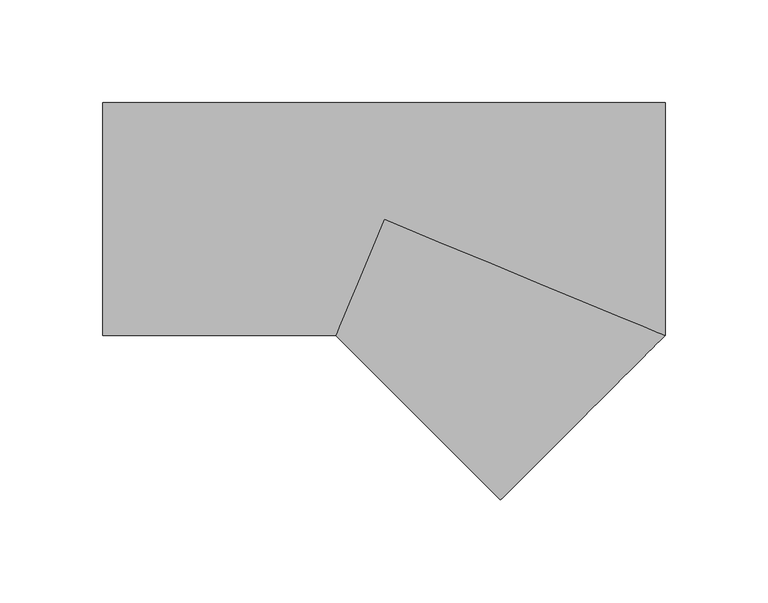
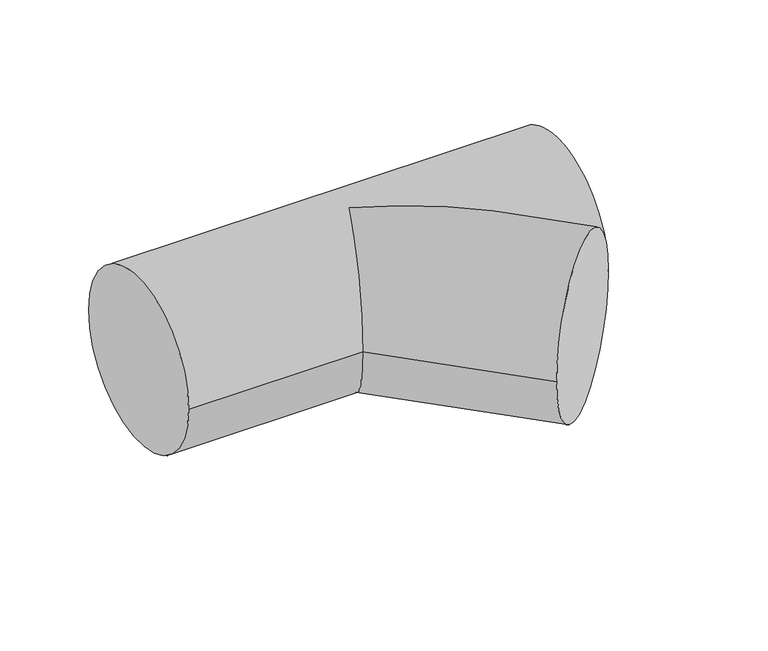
"""IFC4 building model written with IfcOpenShell, lengths in millimetres: pipe fitting geometry, M_Te - Genérica : Estándar."""

import ifcopenshell
import ifcopenshell.guid

model = None  # the IFC model being written
_history = None  # IfcOwnerHistory: only IFC2X3 demands one
_inside = {}  # id of a spatial element -> (the spatial element, [elements in it])
_under = {}  # id of a project, library or spatial element -> (it, [spatial elements below it])
_declared = {}  # id of a project -> (the project, [libraries it declares])
_typed = {}  # id of a type object -> (the type object, [elements of that type])
_made_of = {}  # id of a material, layer set ... -> (it, [elements and type objects made of it])


def new_model(schema):
    """Start an empty IFC model of exactly this schema.

    Asked for "IFC4X3", IfcOpenShell would pick the latest addendum, in which some entities
    have other attributes; the version numbers below select the first issue.
    IFC2X3 requires an IfcOwnerHistory on every rooted entity: one is made here for all.
    """
    global model, _history
    if schema == "IFC4X3":
        model = ifcopenshell.file(schema_version=(4, 3, 0, 0))
    else:
        model = ifcopenshell.file(schema=schema)
    _inside.clear()
    _under.clear()
    _declared.clear()
    _typed.clear()
    _made_of.clear()
    _history = None
    if model.schema == "IFC2X3":
        org = make("IfcOrganization", Name="unknown")
        user = make(
            "IfcPersonAndOrganization",
            ThePerson=make("IfcPerson", FamilyName="unknown"),
            TheOrganization=org,
        )
        app = make(
            "IfcApplication",
            ApplicationDeveloper=org,
            Version="unknown",
            ApplicationFullName="unknown",
            ApplicationIdentifier="unknown",
        )
        _history = make(
            "IfcOwnerHistory",
            OwningUser=user,
            OwningApplication=app,
            ChangeAction="ADDED",
            CreationDate=0,
        )
    return model


def make(cls, **values):
    """One entity of the class cls with the attributes given. An attribute that is None is left unset."""
    return model.create_entity(
        cls, **{name: value for name, value in values.items() if value is not None}
    )


def rooted(cls, **values):
    """An entity with a GlobalId (a new one), such as an element, a storey or a relation."""
    return make(cls, GlobalId=ifcopenshell.guid.new(), OwnerHistory=_history, **values)


def si_unit(unit_type, name, prefix=None):
    """IfcSIUnit, for example si_unit("LENGTHUNIT", "METRE", prefix="MILLI")."""
    return make("IfcSIUnit", UnitType=unit_type, Prefix=prefix, Name=name)


def assignment(units):
    """IfcUnitAssignment: the units of a project."""
    return None if units is None else make("IfcUnitAssignment", Units=units)


def point(xyz):
    """IfcCartesianPoint."""
    return None if xyz is None else make("IfcCartesianPoint", Coordinates=xyz)


def direction(xyz):
    """IfcDirection."""
    return None if xyz is None else make("IfcDirection", DirectionRatios=xyz)


def frame(location, z_axis=None, x_axis=None):
    """IfcAxis2Placement3D, a coordinate frame: its origin and axes. An axis left out is left unset."""
    return make(
        "IfcAxis2Placement3D",
        Location=point(location),
        Axis=direction(z_axis),
        RefDirection=direction(x_axis),
    )


def origin():
    """The frame at (0, 0, 0) with its axes left unset."""
    return frame((0.0, 0.0, 0.0))


def place(relative_to, where):
    """IfcLocalPlacement: puts the frame where relative to a parent placement (None: the world)."""
    return make(
        "IfcLocalPlacement", PlacementRelTo=relative_to, RelativePlacement=where
    )


def context(
    kind, dimensions, precision=None, world=None, true_north=None, identifier=None
):
    """IfcGeometricRepresentationContext, for example the 3D "Model" context."""
    return make(
        "IfcGeometricRepresentationContext",
        ContextIdentifier=identifier,
        ContextType=kind,
        CoordinateSpaceDimension=dimensions,
        Precision=precision,
        WorldCoordinateSystem=world,
        TrueNorth=true_north,
    )


def project(units=None, contexts=None):
    """IfcProject with its units and contexts."""
    return rooted(
        "IfcProject",
        Name="project",
        RepresentationContexts=contexts,
        UnitsInContext=assignment(units),
    )


def spatial(cls, under=None, at=None, **own):
    """A site, building, storey or space (cls), placed at a placement, below another one or the project."""
    s = rooted(cls, ObjectPlacement=at, **own)
    if under is not None:
        _under.setdefault(under.id(), (under, []))[1].append(s)
    return s


def circle_curve(where, radius):
    """IfcCircle in the frame where."""
    return make("IfcCircle", Position=where, Radius=radius)


def ellipse_curve(where, semi_axis1, semi_axis2):
    """IfcEllipse in the frame where."""
    return make(
        "IfcEllipse", Position=where, SemiAxis1=semi_axis1, SemiAxis2=semi_axis2
    )


def shape(context_of_items, identifier, shape_type, items):
    """IfcShapeRepresentation: the items that make up one representation, for example the "Body"."""
    return make(
        "IfcShapeRepresentation",
        ContextOfItems=context_of_items,
        RepresentationIdentifier=identifier,
        RepresentationType=shape_type,
        Items=items,
    )


def source(mapping_origin, context_of_items, identifier, shape_type, items):
    """IfcRepresentationMap: a shape defined once, which mapped items show again and again."""
    return make(
        "IfcRepresentationMap",
        MappingOrigin=mapping_origin,
        MappedRepresentation=shape(context_of_items, identifier, shape_type, items),
    )


def transform(
    local_origin,
    x_axis=None,
    y_axis=None,
    z_axis=None,
    scale=None,
    scale2=None,
    scale3=None,
    uniform=True,
):
    """IfcCartesianTransformationOperator3D, or its non-uniform kind. x_axis, y_axis, z_axis: its Axis1, 2, 3."""
    if uniform:
        return make(
            "IfcCartesianTransformationOperator3D",
            Axis1=direction(x_axis),
            Axis2=direction(y_axis),
            LocalOrigin=point(local_origin),
            Scale=scale,
            Axis3=direction(z_axis),
        )
    return make(
        "IfcCartesianTransformationOperator3DnonUniform",
        Axis1=direction(x_axis),
        Axis2=direction(y_axis),
        LocalOrigin=point(local_origin),
        Scale=scale,
        Axis3=direction(z_axis),
        Scale2=scale2,
        Scale3=scale3,
    )


def mapped(mapping_source, mapping_target):
    """IfcMappedItem: shows the shape of a source again, moved by a transform."""
    return make(
        "IfcMappedItem", MappingSource=mapping_source, MappingTarget=mapping_target
    )


def made_of(thing, what):
    """Note that an element or type object is made of a material, layer set ...; save() writes the relation."""
    if what is not None:
        _made_of.setdefault(what.id(), (what, []))[1].append(thing)
    return thing


def element(
    cls,
    number,
    at=None,
    inside=None,
    cuts=None,
    type_object=None,
    material=None,
    context=None,
    identifier="Body",
    shape_type=None,
    held_by="IfcProductDefinitionShape",
    body=None,
    shapes=None,
    **own,
):
    """One element of the class cls, such as IfcWall. Its Tag is "e" and its number.

    at: its placement. inside: the storey or other place that contains it. cuts: it is an
    opening in that element (IfcRelVoidsElement). A single representation is given by context,
    identifier, shape_type and body (its items); several are given by shapes. held_by: the class
    of the entity that holds the representations. save() writes the other relations.
    """
    e = rooted(cls, Tag="e%d" % number, ObjectPlacement=at, **own)
    if body is not None:
        shapes = [shape(context, identifier, shape_type, body)]
    if shapes is not None:
        e.Representation = make(held_by, Representations=shapes)
    if inside is not None:
        _inside.setdefault(inside.id(), (inside, []))[1].append(e)
    if cuts is not None:
        rooted(
            "IfcRelVoidsElement", RelatingBuildingElement=cuts, RelatedOpeningElement=e
        )
    if type_object is not None:
        _typed.setdefault(type_object.id(), (type_object, []))[1].append(e)
    return made_of(e, material)


def aggregate(whole, parts):
    """IfcRelAggregates: a whole, such as a stair, and the parts it consists of."""
    return rooted("IfcRelAggregates", RelatingObject=whole, RelatedObjects=parts)


def save(model, path):
    """Write the relations noted so far, then the file.

    IfcRelAggregates (storeys below a building ...), IfcRelContainedInSpatialStructure (elements
    in a storey), IfcRelDefinesByType, IfcRelAssociatesMaterial and IfcRelDeclares: one each for
    every whole, place, type object, material and project.
    """
    for whole, parts in _under.values():
        aggregate(whole, parts)
    for where, things in _inside.values():
        rooted(
            "IfcRelContainedInSpatialStructure",
            RelatedElements=things,
            RelatingStructure=where,
        )
    for kind, things in _typed.values():
        rooted("IfcRelDefinesByType", RelatedObjects=things, RelatingType=kind)
    for what, things in _made_of.values():
        rooted("IfcRelAssociatesMaterial", RelatedObjects=things, RelatingMaterial=what)
    for by, libraries in _declared.values():
        rooted("IfcRelDeclares", RelatingContext=by, RelatedDefinitions=libraries)
    model.write(path)


def plane_surface(at):
    """IfcPlane: the flat surface through the origin of the frame at, square to its z axis."""
    return make("IfcPlane", Position=at)


def cylinder_surface(at, radius):
    """IfcCylindricalSurface: all points at the distance radius from the z axis of the frame at."""
    return make("IfcCylindricalSurface", Position=at, Radius=radius)


def advanced_brep(points, edges, surfaces, faces):
    """IfcAdvancedBrep: a solid bounded by faces that lie on surfaces and meet in shared edges.

    An edge is (start, end): straight between two places in points (the first is 0);
    or (start, end, curve); or (start, end, curve, False) where it runs against its curve.
    A face is (place in surfaces, loops), or (place, loops, False) where it looks against
    its surface's normal. A loop lists edges by number (the first is 1), with a minus sign
    where the edge is run from its end to its start. The first loop is the outer one.
    """
    corners = [point(p) for p in points]
    vertices = [make("IfcVertexPoint", VertexGeometry=c) for c in corners]
    made = []
    for start, end, *more in edges:
        made.append(
            make(
                "IfcEdgeCurve",
                EdgeStart=vertices[start],
                EdgeEnd=vertices[end],
                EdgeGeometry=more[0] if more else make("IfcPolyline", Points=[corners[start], corners[end]]),
                SameSense=more[1] if len(more) > 1 else True,
            )
        )
    hull = []
    for where, loops, *sense in faces:
        bounds = []
        for j, loop in enumerate(loops):
            ring = [make("IfcOrientedEdge", EdgeElement=made[abs(k) - 1], Orientation=k > 0) for k in loop]
            bounds.append(
                make(
                    "IfcFaceOuterBound" if j == 0 else "IfcFaceBound",
                    Bound=make("IfcEdgeLoop", EdgeList=ring),
                    Orientation=True,
                )
            )
        hull.append(make("IfcAdvancedFace", Bounds=bounds, FaceSurface=surfaces[where], SameSense=sense[0] if sense else True))
    return make("IfcAdvancedBrep", Outer=make("IfcClosedShell", CfsFaces=hull))


def pipe_fitting_044f3c29(model_context):
    return source(origin(), model_context, "Body", "AdvancedBrep", [
        advanced_brep(
        [(-136.6174838, -56.5875, 0.0), (-136.6174838, 56.5875, 0.0), (136.6174838, -56.5875, 0.0), (136.6174838, 56.5875, 0.0), (-23.4387654, -56.5875, 0.0), (0.0, 0.0, 56.5875), (0.0, 0.0, -56.5875), (56.5919884, -136.6156246, 0.0)],
        [
            (0, 1, circle_curve(frame((-136.6174838, 0.0, 0.0), z_axis=(-1.0, 0.0, 0.0), x_axis=(0.0, 1.0, 0.0)), 56.5875)),
            (1, 0, circle_curve(frame((-136.6174838, 0.0, 0.0), z_axis=(-1.0, 0.0, 0.0), x_axis=(0.0, 1.0, 0.0)), 56.5875)),
            (2, 3, circle_curve(frame((136.6174838, 0.0, 0.0), z_axis=(1.0, 0.0, 0.0), x_axis=(0.0, 1.0, 0.0)), 56.5875)),
            (3, 2, circle_curve(frame((136.6174838, 0.0, 0.0), z_axis=(1.0, 0.0, 0.0), x_axis=(0.0, 1.0, 0.0)), 56.5875)),
            (0, 4),
            (4, 5, ellipse_curve(frame((0.0, 0.0, 0.0), z_axis=(-0.9238826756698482, 0.3826758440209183, 0.0), x_axis=(-0.38267584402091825, -0.9238826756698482, 0.0)), 61.2496603, 56.5875)),
            (5, 2, ellipse_curve(frame((0.0, 0.0, 0.0), z_axis=(0.38267584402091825, 0.9238826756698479, 0.0), x_axis=(-0.9238826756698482, 0.3826758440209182, 0.0)), 147.8731958, 56.5875)),
            (3, 1),
            (2, 6, ellipse_curve(frame((0.0, 0.0, 0.0), z_axis=(0.38267584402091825, 0.9238826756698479, 0.0), x_axis=(-0.9238826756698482, 0.3826758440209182, 0.0)), 147.8731958, 56.5875)),
            (6, 4, ellipse_curve(frame((0.0, 0.0, 0.0), z_axis=(-0.9238826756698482, 0.3826758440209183, 0.0), x_axis=(-0.38267584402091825, -0.9238826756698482, 0.0)), 61.2496603, 56.5875)),
            (7, 2, circle_curve(frame((96.6047361, -96.6015623, 0.0), z_axis=(0.7071183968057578, -0.7070951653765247, 0.0), x_axis=(0.7070951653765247, 0.7071183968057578, 0.0)), 56.5875)),
            (2, 7, circle_curve(frame((96.6047361, -96.6015623, 0.0), z_axis=(0.7071183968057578, -0.7070951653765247, 0.0), x_axis=(0.7070951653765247, 0.7071183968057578, 0.0)), 56.5875)),
            (4, 7),
        ],
        [
            plane_surface(frame((-136.6174838, 0.0, 0.0), z_axis=(-1.0, 0.0, 0.0), x_axis=(0.0, 0.0, 1.0))),
            plane_surface(frame((136.6174838, 0.0, 0.0), z_axis=(1.0, 0.0, 0.0), x_axis=(0.0, 0.0, 1.0))),
            cylinder_surface(frame((-136.6174838, 0.0, 0.0), z_axis=(-1.0, 0.0, 0.0), x_axis=(0.0, 1.0, 0.0)), 56.5875),
            plane_surface(frame((96.6047361, -96.6015623, 0.0), z_axis=(0.7071183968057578, -0.7070951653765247, 0.0), x_axis=(0.0, 0.0, 1.0))),
            cylinder_surface(frame((0.0, 0.0, 0.0), z_axis=(-0.7071183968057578, 0.7070951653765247, 0.0), x_axis=(0.7070951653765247, 0.7071183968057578, 0.0)), 56.5875),
        ],
        [
            (0, [[1, 2]]),
            (1, [[3, 4]]),
            (2, [[-1, 5, 6, 7, -4, 8]]),
            (2, [[-2, -8, -3, 9, 10, -5]]),
            (3, [[11, 12]]),
            (4, [[-12, -7, -6, 13]]),
            (4, [[-11, -13, -10, -9]]),
        ],
    ),
    ])


if __name__ == "__main__":
    model = new_model("IFC4")
    model_context = context("Model", 3, world=origin())
    ifc_project = project(units=[si_unit("LENGTHUNIT", "METRE", prefix="MILLI")], contexts=[model_context])
    site = spatial("IfcSite", under=ifc_project)
    building = spatial("IfcBuilding", under=site)
    placement = place(None, origin())
    pipe_fitting_shape = pipe_fitting_044f3c29(model_context)
    element("IfcPipeFitting", 1, ObjectType="M_Te - Genérica : Estándar", at=placement, inside=building, context=model_context, shape_type="MappedRepresentation", body=[
        mapped(pipe_fitting_shape, transform((0.0, 0.0, 0.0), x_axis=(1.0, 0.0, 0.0), y_axis=(0.0, 1.0, 0.0), z_axis=(0.0, 0.0, 1.0))),
    ])
    save(model, "model.ifc")
